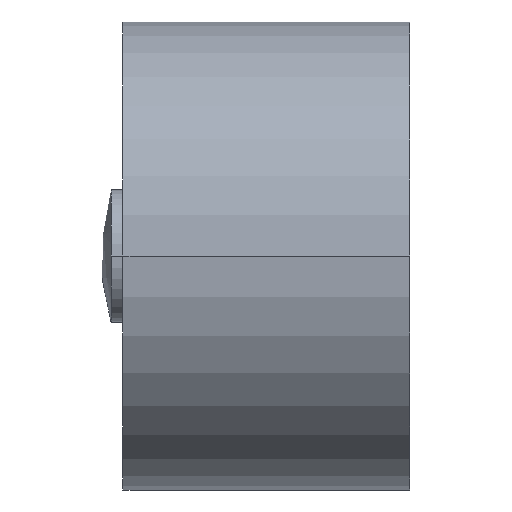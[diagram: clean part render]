
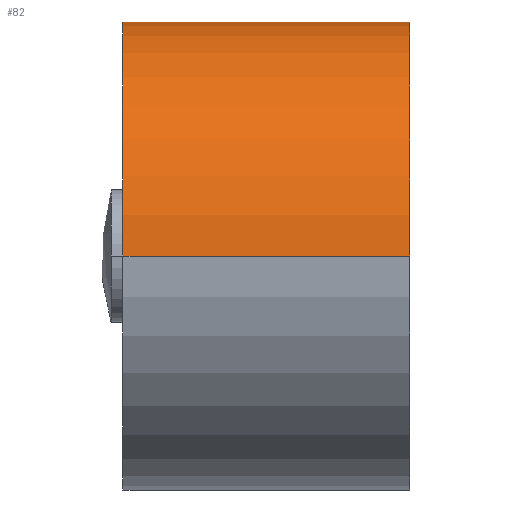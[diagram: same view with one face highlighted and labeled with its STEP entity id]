
A CAD part, left-side view. The second image highlights one B-rep face of the part: STEP entity #82.
In plain terms, the highlighted cylindrical face has radius 5.3 mm (diameter 10.6 mm), a partial arc.
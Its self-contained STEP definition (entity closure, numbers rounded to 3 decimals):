
#82=ADVANCED_FACE('',(#127),#128,.T.);
#127=FACE_OUTER_BOUND('',#205,.T.);
#128=CYLINDRICAL_SURFACE('',#206,5.3);
#205=EDGE_LOOP('',(#328,#329,#330,#331,#332,#333,#334,#335,#336));
#206=AXIS2_PLACEMENT_3D('',#337,#338,#339);
#328=ORIENTED_EDGE('',*,*,#595,.F.);
#329=ORIENTED_EDGE('',*,*,#596,.T.);
#330=ORIENTED_EDGE('',*,*,#597,.F.);
#331=ORIENTED_EDGE('',*,*,#598,.F.);
#332=ORIENTED_EDGE('',*,*,#599,.F.);
#333=ORIENTED_EDGE('',*,*,#600,.T.);
#334=ORIENTED_EDGE('',*,*,#601,.T.);
#335=ORIENTED_EDGE('',*,*,#602,.T.);
#336=ORIENTED_EDGE('',*,*,#603,.T.);
#337=CARTESIAN_POINT('',(0.0,3.25,0.0));
#338=DIRECTION('',(0.0,-1.0,0.0));
#339=DIRECTION('',(1.0,0.0,0.0));
#595=EDGE_CURVE('',#717,#718,#719,.T.);
#596=EDGE_CURVE('',#717,#720,#721,.T.);
#597=EDGE_CURVE('',#722,#720,#723,.T.);
#598=EDGE_CURVE('',#724,#722,#725,.T.);
#599=EDGE_CURVE('',#726,#724,#727,.T.);
#600=EDGE_CURVE('',#726,#728,#729,.T.);
#601=EDGE_CURVE('',#728,#730,#731,.T.);
#602=EDGE_CURVE('',#730,#732,#733,.T.);
#603=EDGE_CURVE('',#732,#718,#734,.T.);
#717=VERTEX_POINT('',#874);
#718=VERTEX_POINT('',#875);
#719=LINE('',#876,#877);
#720=VERTEX_POINT('',#878);
#721=CIRCLE('',#879,5.3);
#722=VERTEX_POINT('',#880);
#723=LINE('',#881,#882);
#724=VERTEX_POINT('',#883);
#725=CIRCLE('',#884,5.3);
#726=VERTEX_POINT('',#885);
#727=LINE('',#886,#887);
#728=VERTEX_POINT('',#888);
#729=B_SPLINE_CURVE_WITH_KNOTS('',3,(#889,#890,#891,#892,#893,#894),.UNSPECIFIED.,.F.,.F.,(4,2,4),(0.581,0.629,0.662),.UNSPECIFIED.);
#730=VERTEX_POINT('',#895);
#731=B_SPLINE_CURVE_WITH_KNOTS('',3,(#896,#897,#898,#899,#900,#901,#902,#903,#904,#905,#906,#907,#908,#909,#910),.UNSPECIFIED.,.F.,.F.,(4,2,2,3,2,2,4),(-0.105,-0.095,-0.047,0.0,0.047,0.095,0.105),.UNSPECIFIED.);
#732=VERTEX_POINT('',#911);
#733=B_SPLINE_CURVE_WITH_KNOTS('',3,(#912,#913,#914,#915,#916,#917,#918,#919,#920,#921,#922,#923,#924,#925,#926),.UNSPECIFIED.,.F.,.F.,(4,2,2,3,2,2,4),(-0.105,-0.095,-0.047,0.0,0.047,0.095,0.105),.UNSPECIFIED.);
#734=B_SPLINE_CURVE_WITH_KNOTS('',3,(#927,#928,#929,#930,#931,#932),.UNSPECIFIED.,.F.,.F.,(4,2,4),(0.112,0.148,0.194),.UNSPECIFIED.);
#874=CARTESIAN_POINT('',(5.3,6.5,0.0));
#875=CARTESIAN_POINT('',(5.3,3.188,0.0));
#876=CARTESIAN_POINT('',(5.3,3.25,0.));
#877=VECTOR('',#1130,1.0);
#878=CARTESIAN_POINT('',(-5.3,6.5,0.));
#879=AXIS2_PLACEMENT_3D('',#1131,#1132,#1133);
#880=CARTESIAN_POINT('',(-5.3,0.0,0.));
#881=CARTESIAN_POINT('',(-5.3,3.25,0.));
#882=VECTOR('',#1134,1.0);
#883=CARTESIAN_POINT('',(5.3,0.0,0.0));
#884=AXIS2_PLACEMENT_3D('',#1135,#1136,#1137);
#885=CARTESIAN_POINT('',(5.3,0.812,0.));
#886=CARTESIAN_POINT('',(5.3,3.25,0.));
#887=VECTOR('',#1138,1.0);
#888=CARTESIAN_POINT('',(5.238,1.047,0.809));
#889=CARTESIAN_POINT('',(5.3,0.812,0.));
#890=CARTESIAN_POINT('',(5.3,0.812,0.158));
#891=CARTESIAN_POINT('',(5.292,0.838,0.329));
#892=CARTESIAN_POINT('',(5.267,0.931,0.603));
#893=CARTESIAN_POINT('',(5.253,0.984,0.712));
#894=CARTESIAN_POINT('',(5.238,1.047,0.809));
#895=CARTESIAN_POINT('',(5.219,2.844,0.922));
#896=CARTESIAN_POINT('',(5.238,1.047,0.809));
#897=CARTESIAN_POINT('',(5.234,1.069,0.835));
#898=CARTESIAN_POINT('',(5.23,1.092,0.86));
#899=CARTESIAN_POINT('',(5.207,1.227,0.995));
#900=CARTESIAN_POINT('',(5.187,1.367,1.091));
#901=CARTESIAN_POINT('',(5.158,1.675,1.218));
#902=CARTESIAN_POINT('',(5.15,1.842,1.25));
#903=CARTESIAN_POINT('',(5.15,2.0,1.25));
#904=CARTESIAN_POINT('',(5.15,2.158,1.25));
#905=CARTESIAN_POINT('',(5.158,2.325,1.218));
#906=CARTESIAN_POINT('',(5.187,2.633,1.091));
#907=CARTESIAN_POINT('',(5.207,2.773,0.995));
#908=CARTESIAN_POINT('',(5.23,2.908,0.86));
#909=CARTESIAN_POINT('',(5.234,2.931,0.835));
#910=CARTESIAN_POINT('',(5.238,2.953,0.809));
#911=CARTESIAN_POINT('',(5.238,2.953,0.809));
#912=CARTESIAN_POINT('',(5.238,1.047,0.809));
#913=CARTESIAN_POINT('',(5.234,1.069,0.835));
#914=CARTESIAN_POINT('',(5.23,1.092,0.86));
#915=CARTESIAN_POINT('',(5.207,1.227,0.995));
#916=CARTESIAN_POINT('',(5.187,1.367,1.091));
#917=CARTESIAN_POINT('',(5.158,1.675,1.218));
#918=CARTESIAN_POINT('',(5.15,1.842,1.25));
#919=CARTESIAN_POINT('',(5.15,2.0,1.25));
#920=CARTESIAN_POINT('',(5.15,2.158,1.25));
#921=CARTESIAN_POINT('',(5.158,2.325,1.218));
#922=CARTESIAN_POINT('',(5.187,2.633,1.091));
#923=CARTESIAN_POINT('',(5.207,2.773,0.995));
#924=CARTESIAN_POINT('',(5.23,2.908,0.86));
#925=CARTESIAN_POINT('',(5.234,2.931,0.835));
#926=CARTESIAN_POINT('',(5.238,2.953,0.809));
#927=CARTESIAN_POINT('',(5.238,2.953,0.809));
#928=CARTESIAN_POINT('',(5.254,3.018,0.708));
#929=CARTESIAN_POINT('',(5.268,3.074,0.593));
#930=CARTESIAN_POINT('',(5.293,3.164,0.317));
#931=CARTESIAN_POINT('',(5.3,3.188,0.153));
#932=CARTESIAN_POINT('',(5.3,3.188,0.));
#1130=DIRECTION('',(0.0,-1.0,0.0));
#1131=CARTESIAN_POINT('',(0.0,6.5,0.0));
#1132=DIRECTION('',(0.0,-1.0,0.0));
#1133=DIRECTION('',(1.0,0.0,0.0));
#1134=DIRECTION('',(0.0,1.0,0.0));
#1135=CARTESIAN_POINT('',(0.0,0.0,0.0));
#1136=DIRECTION('',(0.0,-1.0,0.0));
#1137=DIRECTION('',(1.0,0.0,0.0));
#1138=DIRECTION('',(0.0,-1.0,0.0));
